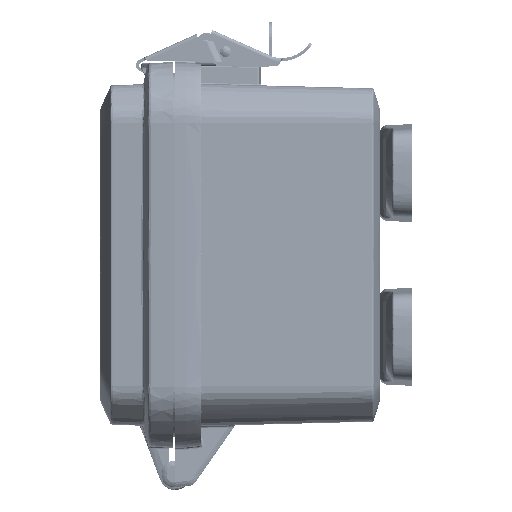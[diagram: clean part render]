
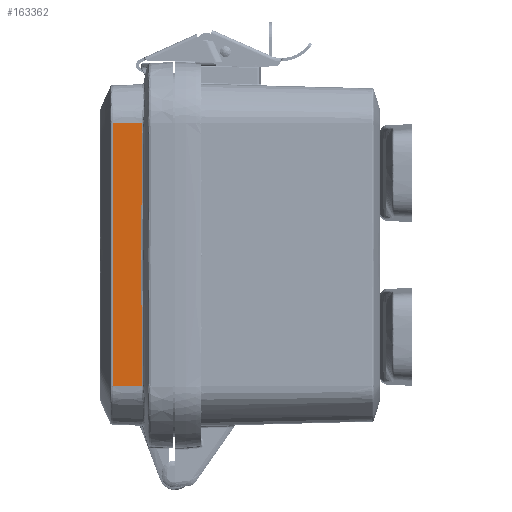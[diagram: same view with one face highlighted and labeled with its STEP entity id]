
A CAD part, left-side view. The second image highlights one B-rep face of the part: STEP entity #163362.
In plain terms, the highlighted planar face has unit normal (-0.999, 0.035, 0).
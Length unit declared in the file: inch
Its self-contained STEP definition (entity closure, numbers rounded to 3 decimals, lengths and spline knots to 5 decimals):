
#2090 = CARTESIAN_POINT ( 'NONE',  ( -3.10805, 0.4854, 0. ) ) ;
#8510 = CARTESIAN_POINT ( 'NONE',  ( -3.0929, 0.91923, 1.33475 ) ) ;
#8610 = ORIENTED_EDGE ( 'NONE', *, *, #94413, .T. ) ;
#13450 = CARTESIAN_POINT ( 'NONE',  ( -3.09291, 0.91908, -2.00844 ) ) ;
#17373 = CARTESIAN_POINT ( 'NONE',  ( -3.10805, 0.48544, -1.17164 ) ) ;
#22718 = CARTESIAN_POINT ( 'NONE',  ( -3.0929, 0.9192, 0. ) ) ;
#25672 = EDGE_CURVE ( 'NONE', #183736, #114702, #135146, .T. ) ;
#27008 = ORIENTED_EDGE ( 'NONE', *, *, #79714, .T. ) ;
#34120 = CARTESIAN_POINT ( 'NONE',  ( -3.10819, 0.48144, -2.00844 ) ) ;
#36293 = CARTESIAN_POINT ( 'NONE',  ( -3.125, 0., -2.00844 ) ) ;
#37340 = PLANE ( 'NONE',  #103742 ) ;
#37851 = CARTESIAN_POINT ( 'NONE',  ( -3.09291, 0.91908, 2.00844 ) ) ;
#42272 = CARTESIAN_POINT ( 'NONE',  ( -3.0929, 0.91923, -1.33475 ) ) ;
#46346 = CARTESIAN_POINT ( 'NONE',  ( -3.09291, 0.91908, -2.00844 ) ) ;
#52692 = CARTESIAN_POINT ( 'NONE',  ( -3.10805, 0.48527, 1.67379 ) ) ;
#53728 = CARTESIAN_POINT ( 'NONE',  ( -3.10804, 0.48564, 1.92486 ) ) ;
#54065 = DIRECTION ( 'NONE',  ( -0.999, 0.035, 0. ) ) ;
#57738 = EDGE_CURVE ( 'NONE', #118888, #175013, #100706, .T. ) ;
#62951 = B_SPLINE_CURVE_WITH_KNOTS ( 'NONE', 3,
 ( #37851, #85921, #8510, #185244 ),
 .UNSPECIFIED., .F., .F.,
 ( 4, 4 ),
 ( 0., 1. ),
 .UNSPECIFIED. ) ;
#67381 = CARTESIAN_POINT ( 'NONE',  ( -3.10819, 0.48144, -2.00844 ) ) ;
#72509 = CARTESIAN_POINT ( 'NONE',  ( -3.10805, 0.48534, 0.66952 ) ) ;
#73549 = CARTESIAN_POINT ( 'NONE',  ( -3.10805, 0.4854, 0. ) ) ;
#74581 = CARTESIAN_POINT ( 'NONE',  ( -3.125, 0., 2.00844 ) ) ;
#79714 = EDGE_CURVE ( 'NONE', #183736, #134303, #62951, .T. ) ;
#83240 = CARTESIAN_POINT ( 'NONE',  ( -3.10804, 0.48564, -1.92484 ) ) ;
#85072 = EDGE_CURVE ( 'NONE', #175013, #114702, #101188, .T. ) ;
#85403 = FACE_OUTER_BOUND ( 'NONE', #152939, .T. ) ;
#85921 = CARTESIAN_POINT ( 'NONE',  ( -3.0929, 0.91919, 2.00423 ) ) ;
#89668 = B_SPLINE_CURVE_WITH_KNOTS ( 'NONE', 3,
 ( #156184, #42272, #139417, #46346 ),
 .UNSPECIFIED., .F., .F.,
 ( 4, 4 ),
 ( 0., 1. ),
 .UNSPECIFIED. ) ;
#94413 = EDGE_CURVE ( 'NONE', #100117, #118888, #206344, .T. ) ;
#95779 = CARTESIAN_POINT ( 'NONE',  ( -3.10805, 0.4854, 0. ) ) ;
#97836 = CARTESIAN_POINT ( 'NONE',  ( -3.10805, 0.48549, -1.84115 ) ) ;
#100117 = VERTEX_POINT ( 'NONE', #13450 ) ;
#100706 = B_SPLINE_CURVE_WITH_KNOTS ( 'NONE', 3,
 ( #34120, #189998, #83240, #97836, #205690, #160647, #161682, #176347, #17373, #158592, #127133, #95779 ),
 .UNSPECIFIED., .F., .F.,
 ( 4, 2, 2, 2, 2, 4 ),
 ( 0., 0.00319, 0.00638, 0.01276, 0.02551, 0.05102 ),
 .UNSPECIFIED. ) ;
#100734 = CARTESIAN_POINT ( 'NONE',  ( -3.10819, 0.48144, 2.00844 ) ) ;
#101188 = B_SPLINE_CURVE_WITH_KNOTS ( 'NONE', 3,
 ( #73549, #148858, #72509, #165586, #137240, #133085, #52692, #197004, #116392, #53728, #180263, #100734 ),
 .UNSPECIFIED., .F., .F.,
 ( 4, 2, 2, 2, 2, 4 ),
 ( 0., 0.02551, 0.03826, 0.04464, 0.04783, 0.05102 ),
 .UNSPECIFIED. ) ;
#103742 = AXIS2_PLACEMENT_3D ( 'NONE', #36293, #54065, #162832 ) ;
#107286 = ORIENTED_EDGE ( 'NONE', *, *, #57738, .T. ) ;
#109478 = EDGE_CURVE ( 'NONE', #134303, #100117, #89668, .T. ) ;
#111102 = DIRECTION ( 'NONE',  ( -0.035, -0.999, 0. ) ) ;
#114702 = VERTEX_POINT ( 'NONE', #145457 ) ;
#116392 = CARTESIAN_POINT ( 'NONE',  ( -3.10805, 0.48549, 1.84117 ) ) ;
#118888 = VERTEX_POINT ( 'NONE', #67381 ) ;
#127133 = CARTESIAN_POINT ( 'NONE',  ( -3.10805, 0.48541, -0.33475 ) ) ;
#130784 = VECTOR ( 'NONE', #111102, 39.37008 ) ;
#131829 = CARTESIAN_POINT ( 'NONE',  ( -3.09291, 0.91908, 2.00844 ) ) ;
#133085 = CARTESIAN_POINT ( 'NONE',  ( -3.10805, 0.48533, 1.5901 ) ) ;
#133315 = ORIENTED_EDGE ( 'NONE', *, *, #25672, .F. ) ;
#134303 = VERTEX_POINT ( 'NONE', #22718 ) ;
#135146 = LINE ( 'NONE', #74581, #173237 ) ;
#137240 = CARTESIAN_POINT ( 'NONE',  ( -3.10805, 0.48549, 1.33903 ) ) ;
#139417 = CARTESIAN_POINT ( 'NONE',  ( -3.0929, 0.91919, -2.00423 ) ) ;
#145457 = CARTESIAN_POINT ( 'NONE',  ( -3.10819, 0.48144, 2.00844 ) ) ;
#148858 = CARTESIAN_POINT ( 'NONE',  ( -3.10805, 0.48541, 0.33476 ) ) ;
#149873 = ORIENTED_EDGE ( 'NONE', *, *, #85072, .T. ) ;
#152939 = EDGE_LOOP ( 'NONE', ( #27008, #185538, #8610, #107286, #149873, #133315 ) ) ;
#156184 = CARTESIAN_POINT ( 'NONE',  ( -3.0929, 0.9192, 0. ) ) ;
#158592 = CARTESIAN_POINT ( 'NONE',  ( -3.10805, 0.48534, -0.66951 ) ) ;
#160647 = CARTESIAN_POINT ( 'NONE',  ( -3.10805, 0.48527, -1.67377 ) ) ;
#161682 = CARTESIAN_POINT ( 'NONE',  ( -3.10805, 0.48533, -1.59008 ) ) ;
#162367 = CARTESIAN_POINT ( 'NONE',  ( -3.125, 0., -2.00844 ) ) ;
#162832 = DIRECTION ( 'NONE',  ( -0.035, -0.999, 0. ) ) ;
#163362 = ADVANCED_FACE ( 'NONE', ( #85403 ), #37340, .T. ) ;
#165586 = CARTESIAN_POINT ( 'NONE',  ( -3.10805, 0.48544, 1.17165 ) ) ;
#167645 = DIRECTION ( 'NONE',  ( -0.035, -0.999, 0. ) ) ;
#173237 = VECTOR ( 'NONE', #167645, 39.37008 ) ;
#175013 = VERTEX_POINT ( 'NONE', #2090 ) ;
#176347 = CARTESIAN_POINT ( 'NONE',  ( -3.10805, 0.48549, -1.33902 ) ) ;
#180263 = CARTESIAN_POINT ( 'NONE',  ( -3.10809, 0.48411, 1.96668 ) ) ;
#183736 = VERTEX_POINT ( 'NONE', #131829 ) ;
#185244 = CARTESIAN_POINT ( 'NONE',  ( -3.0929, 0.9192, 0. ) ) ;
#185538 = ORIENTED_EDGE ( 'NONE', *, *, #109478, .T. ) ;
#189998 = CARTESIAN_POINT ( 'NONE',  ( -3.10809, 0.48411, -1.96668 ) ) ;
#197004 = CARTESIAN_POINT ( 'NONE',  ( -3.10805, 0.48539, 1.79932 ) ) ;
#205690 = CARTESIAN_POINT ( 'NONE',  ( -3.10805, 0.48539, -1.7993 ) ) ;
#206344 = LINE ( 'NONE', #162367, #130784 ) ;
